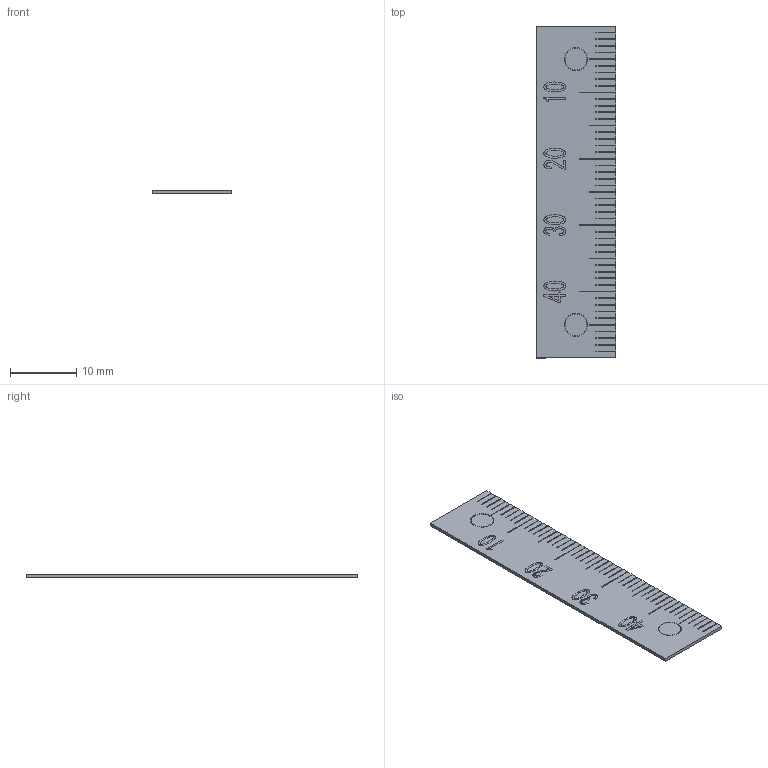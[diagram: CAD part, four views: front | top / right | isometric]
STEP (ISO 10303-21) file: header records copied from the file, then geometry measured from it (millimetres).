
FILE_DESCRIPTION (( 'STEP AP203' ), '1' );
FILE_NAME ('es1n-d50l.STEP', '2023-06-15T07:05:03', ( '' ), ( '' ), 'SwSTEP 2.0', 'SolidWorks 2021', '' );
FILE_SCHEMA (( 'CONFIG_CONTROL_DESIGN' ));
Length unit declared in the file: millimetre
Products named in the file (1): es1n-d50l
Bounding box: 12 x 50 x 0.5 mm (x, y, z)
Volume: 299.7 mm3; surface area: 1266.7 mm2
Topology: 1 solids, 1 shells, 356 faces, 1011 edges, 674 vertices
Faces by surface type: plane 247, bspline 101, cylinder 8
Entity records: 15498 total; most frequent: CARTESIAN_POINT 6839, ORIENTED_EDGE 2022, DIRECTION 1337, EDGE_CURVE 1011, LINE 793, VECTOR 793, VERTEX_POINT 674, EDGE_LOOP 373
